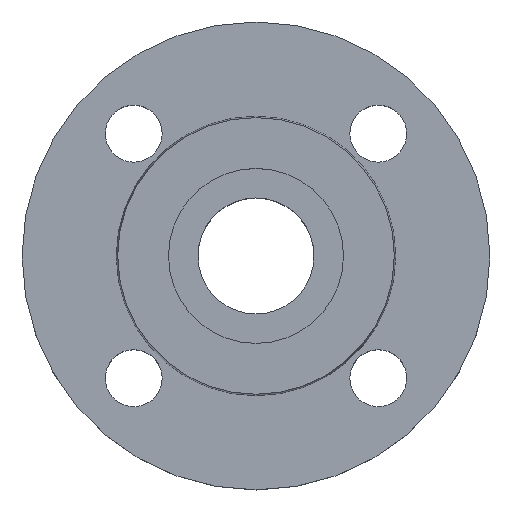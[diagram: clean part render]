
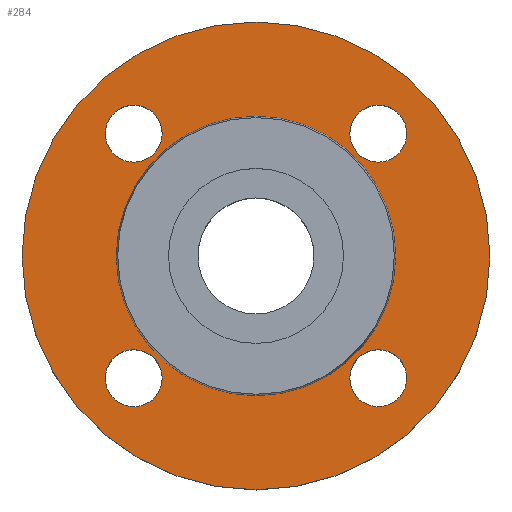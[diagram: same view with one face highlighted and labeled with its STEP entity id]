
A CAD part, top view. The second image highlights one B-rep face of the part: STEP entity #284.
In plain terms, the highlighted planar face has unit normal (0, 0, 1).
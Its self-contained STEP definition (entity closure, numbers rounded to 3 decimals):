
#20 = CIRCLE ( 'NONE', #44, 7. ) ;
#25 = DIRECTION ( 'NONE',  ( 1., 0., 0. ) ) ;
#26 = DIRECTION ( 'NONE',  ( 0., 0., -1. ) ) ;
#27 = CARTESIAN_POINT ( 'NONE',  ( 30.052, 30.052, -2. ) ) ;
#29 = CARTESIAN_POINT ( 'NONE',  ( 23.052, -30.052, -2. ) ) ;
#34 = CARTESIAN_POINT ( 'NONE',  ( -57.5, 0., -2. ) ) ;
#44 = AXIS2_PLACEMENT_3D ( 'NONE', #462, #746, #463 ) ;
#46 = CARTESIAN_POINT ( 'NONE',  ( 37.052, 30.052, -2. ) ) ;
#51 = CARTESIAN_POINT ( 'NONE',  ( -37.052, 30.052, -2. ) ) ;
#61 = CARTESIAN_POINT ( 'NONE',  ( 34.353, 0., -2. ) ) ;
#63 = CARTESIAN_POINT ( 'NONE',  ( -34.353, 0., -2. ) ) ;
#64 = CARTESIAN_POINT ( 'NONE',  ( 23.052, 30.052, -2. ) ) ;
#65 = CARTESIAN_POINT ( 'NONE',  ( -23.052, -30.052, -2. ) ) ;
#66 = CARTESIAN_POINT ( 'NONE',  ( -23.052, 30.052, -2. ) ) ;
#71 = CIRCLE ( 'NONE', #77, 57.5 ) ;
#77 = AXIS2_PLACEMENT_3D ( 'NONE', #234, #235, #243 ) ;
#79 = CARTESIAN_POINT ( 'NONE',  ( 37.052, -30.052, -2. ) ) ;
#85 = CIRCLE ( 'NONE', #90, 57.5 ) ;
#90 = AXIS2_PLACEMENT_3D ( 'NONE', #272, #283, #338 ) ;
#92 = CARTESIAN_POINT ( 'NONE',  ( 57.5, 0., -2. ) ) ;
#95 = CARTESIAN_POINT ( 'NONE',  ( -37.052, -30.052, -2. ) ) ;
#99 = DIRECTION ( 'NONE',  ( 1., 0., 0. ) ) ;
#100 = DIRECTION ( 'NONE',  ( 0., 0., -1. ) ) ;
#101 = CARTESIAN_POINT ( 'NONE',  ( -30.052, -30.052, -2. ) ) ;
#125 = DIRECTION ( 'NONE',  ( 0., 0., -1. ) ) ;
#128 = CIRCLE ( 'NONE', #361, 34.353 ) ;
#164 = DIRECTION ( 'NONE',  ( -1., 0., 0. ) ) ;
#165 = DIRECTION ( 'NONE',  ( 0., 0., -1. ) ) ;
#166 = DIRECTION ( 'NONE',  ( 1., 0., 0. ) ) ;
#168 = CARTESIAN_POINT ( 'NONE',  ( 0., 0., -2. ) ) ;
#171 = CARTESIAN_POINT ( 'NONE',  ( -30.052, 30.052, -2. ) ) ;
#199 = EDGE_CURVE ( 'NONE', #855, #661, #20, .T. ) ;
#210 = CARTESIAN_POINT ( 'NONE',  ( -30.052, 30.052, -2. ) ) ;
#211 = CIRCLE ( 'NONE', #212, 7. ) ;
#212 = AXIS2_PLACEMENT_3D ( 'NONE', #582, #617, #545 ) ;
#217 = DIRECTION ( 'NONE',  ( 0., 0., -1. ) ) ;
#222 = DIRECTION ( 'NONE',  ( 1., 0., 0. ) ) ;
#224 = DIRECTION ( 'NONE',  ( 0., 0., -1. ) ) ;
#226 = CARTESIAN_POINT ( 'NONE',  ( -30.052, -30.052, -2. ) ) ;
#234 = CARTESIAN_POINT ( 'NONE',  ( 0., 0., -2. ) ) ;
#235 = DIRECTION ( 'NONE',  ( 0., 0., -1. ) ) ;
#236 = EDGE_CURVE ( 'NONE', #715, #677, #325, .T. ) ;
#237 = CIRCLE ( 'NONE', #242, 7. ) ;
#242 = AXIS2_PLACEMENT_3D ( 'NONE', #171, #125, #166 ) ;
#243 = DIRECTION ( 'NONE',  ( -1., 0., 0. ) ) ;
#244 = AXIS2_PLACEMENT_3D ( 'NONE', #502, #522, #517 ) ;
#267 = EDGE_CURVE ( 'NONE', #648, #849, #71, .T. ) ;
#271 = AXIS2_PLACEMENT_3D ( 'NONE', #210, #217, #533 ) ;
#272 = CARTESIAN_POINT ( 'NONE',  ( 0., 0., -2. ) ) ;
#274 = EDGE_CURVE ( 'NONE', #849, #648, #85, .T. ) ;
#277 = CIRCLE ( 'NONE', #280, 7. ) ;
#280 = AXIS2_PLACEMENT_3D ( 'NONE', #226, #224, #222 ) ;
#283 = DIRECTION ( 'NONE',  ( 0., 0., -1. ) ) ;
#284 = ADVANCED_FACE ( 'NONE', ( #363, #376, #377, #380, #382, #384 ), #386, .T. ) ;
#307 = CIRCLE ( 'NONE', #308, 34.353 ) ;
#308 = AXIS2_PLACEMENT_3D ( 'NONE', #168, #165, #164 ) ;
#322 = EDGE_CURVE ( 'NONE', #684, #682, #128, .T. ) ;
#325 = CIRCLE ( 'NONE', #271, 7. ) ;
#338 = DIRECTION ( 'NONE',  ( -1., 0., 0. ) ) ;
#343 = CIRCLE ( 'NONE', #354, 7. ) ;
#354 = AXIS2_PLACEMENT_3D ( 'NONE', #101, #100, #99 ) ;
#361 = AXIS2_PLACEMENT_3D ( 'NONE', #421, #422, #423 ) ;
#363 = FACE_BOUND ( 'NONE', #687, .T. ) ;
#366 = AXIS2_PLACEMENT_3D ( 'NONE', #387, #388, #391 ) ;
#376 = FACE_BOUND ( 'NONE', #668, .T. ) ;
#377 = FACE_BOUND ( 'NONE', #676, .T. ) ;
#380 = FACE_BOUND ( 'NONE', #851, .T. ) ;
#382 = FACE_BOUND ( 'NONE', #690, .T. ) ;
#384 = FACE_OUTER_BOUND ( 'NONE', #679, .T. ) ;
#386 = PLANE ( 'NONE',  #366 ) ;
#387 = CARTESIAN_POINT ( 'NONE',  ( 34.353, 0., -2. ) ) ;
#388 = DIRECTION ( 'NONE',  ( 0., 0., 1. ) ) ;
#391 = DIRECTION ( 'NONE',  ( 1., 0., 0. ) ) ;
#398 = CIRCLE ( 'NONE', #400, 7. ) ;
#400 = AXIS2_PLACEMENT_3D ( 'NONE', #27, #26, #25 ) ;
#404 = CIRCLE ( 'NONE', #244, 7. ) ;
#421 = CARTESIAN_POINT ( 'NONE',  ( 0., 0., -2. ) ) ;
#422 = DIRECTION ( 'NONE',  ( 0., 0., -1. ) ) ;
#423 = DIRECTION ( 'NONE',  ( -1., 0., 0. ) ) ;
#456 = EDGE_CURVE ( 'NONE', #734, #681, #211, .T. ) ;
#462 = CARTESIAN_POINT ( 'NONE',  ( 30.052, -30.052, -2. ) ) ;
#463 = DIRECTION ( 'NONE',  ( 1., 0., 0. ) ) ;
#486 = EDGE_CURVE ( 'NONE', #661, #855, #404, .T. ) ;
#502 = CARTESIAN_POINT ( 'NONE',  ( 30.052, -30.052, -2. ) ) ;
#517 = DIRECTION ( 'NONE',  ( 1., 0., 0. ) ) ;
#522 = DIRECTION ( 'NONE',  ( 0., 0., -1. ) ) ;
#533 = DIRECTION ( 'NONE',  ( 1., 0., 0. ) ) ;
#545 = DIRECTION ( 'NONE',  ( 1., 0., 0. ) ) ;
#572 = EDGE_CURVE ( 'NONE', #677, #715, #237, .T. ) ;
#582 = CARTESIAN_POINT ( 'NONE',  ( 30.052, 30.052, -2. ) ) ;
#611 = EDGE_CURVE ( 'NONE', #639, #680, #277, .T. ) ;
#617 = DIRECTION ( 'NONE',  ( 0., 0., -1. ) ) ;
#622 = EDGE_CURVE ( 'NONE', #682, #684, #307, .T. ) ;
#634 = EDGE_CURVE ( 'NONE', #680, #639, #343, .T. ) ;
#639 = VERTEX_POINT ( 'NONE', #95 ) ;
#648 = VERTEX_POINT ( 'NONE', #92 ) ;
#661 = VERTEX_POINT ( 'NONE', #79 ) ;
#668 = EDGE_LOOP ( 'NONE', ( #766, #767 ) ) ;
#676 = EDGE_LOOP ( 'NONE', ( #768, #769 ) ) ;
#677 = VERTEX_POINT ( 'NONE', #66 ) ;
#679 = EDGE_LOOP ( 'NONE', ( #774, #775 ) ) ;
#680 = VERTEX_POINT ( 'NONE', #65 ) ;
#681 = VERTEX_POINT ( 'NONE', #64 ) ;
#682 = VERTEX_POINT ( 'NONE', #63 ) ;
#684 = VERTEX_POINT ( 'NONE', #61 ) ;
#687 = EDGE_LOOP ( 'NONE', ( #763, #765 ) ) ;
#690 = EDGE_LOOP ( 'NONE', ( #772, #773 ) ) ;
#715 = VERTEX_POINT ( 'NONE', #51 ) ;
#734 = VERTEX_POINT ( 'NONE', #46 ) ;
#746 = DIRECTION ( 'NONE',  ( 0., 0., -1. ) ) ;
#763 = ORIENTED_EDGE ( 'NONE', *, *, #486, .T. ) ;
#765 = ORIENTED_EDGE ( 'NONE', *, *, #199, .T. ) ;
#766 = ORIENTED_EDGE ( 'NONE', *, *, #634, .T. ) ;
#767 = ORIENTED_EDGE ( 'NONE', *, *, #611, .T. ) ;
#768 = ORIENTED_EDGE ( 'NONE', *, *, #572, .T. ) ;
#769 = ORIENTED_EDGE ( 'NONE', *, *, #236, .T. ) ;
#770 = ORIENTED_EDGE ( 'NONE', *, *, #456, .T. ) ;
#771 = ORIENTED_EDGE ( 'NONE', *, *, #859, .T. ) ;
#772 = ORIENTED_EDGE ( 'NONE', *, *, #622, .T. ) ;
#773 = ORIENTED_EDGE ( 'NONE', *, *, #322, .T. ) ;
#774 = ORIENTED_EDGE ( 'NONE', *, *, #267, .F. ) ;
#775 = ORIENTED_EDGE ( 'NONE', *, *, #274, .F. ) ;
#849 = VERTEX_POINT ( 'NONE', #34 ) ;
#851 = EDGE_LOOP ( 'NONE', ( #770, #771 ) ) ;
#855 = VERTEX_POINT ( 'NONE', #29 ) ;
#859 = EDGE_CURVE ( 'NONE', #681, #734, #398, .T. ) ;
